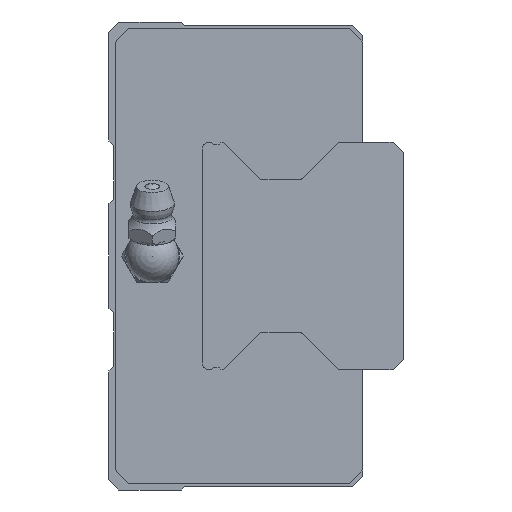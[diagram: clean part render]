
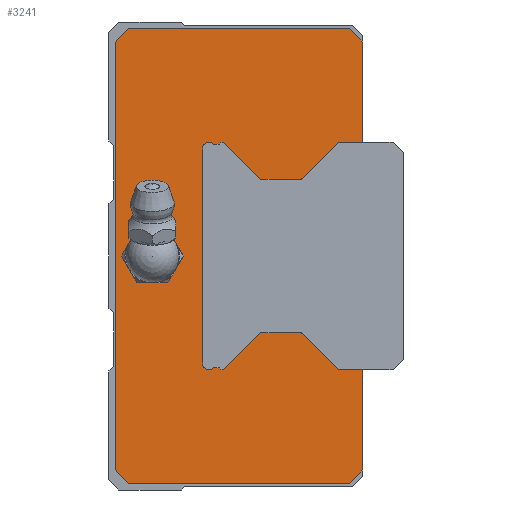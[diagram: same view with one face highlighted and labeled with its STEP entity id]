
A CAD part, left-side view. The second image highlights one B-rep face of the part: STEP entity #3241.
In plain terms, the highlighted planar face has unit normal (-1, 0, 0).
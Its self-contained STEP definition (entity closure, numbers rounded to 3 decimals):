
#143=CIRCLE('',#3519,3.);
#144=CIRCLE('',#3520,0.3);
#145=CIRCLE('',#3521,0.3);
#146=CIRCLE('',#3522,1.);
#147=CIRCLE('',#3523,1.);
#148=CIRCLE('',#3524,0.3);
#149=CIRCLE('',#3525,0.3);
#582=ORIENTED_EDGE('',*,*,#1330,.T.);
#583=ORIENTED_EDGE('',*,*,#1331,.T.);
#584=ORIENTED_EDGE('',*,*,#1323,.F.);
#585=ORIENTED_EDGE('',*,*,#1251,.F.);
#586=ORIENTED_EDGE('',*,*,#1247,.F.);
#587=ORIENTED_EDGE('',*,*,#1239,.F.);
#588=ORIENTED_EDGE('',*,*,#1315,.F.);
#589=ORIENTED_EDGE('',*,*,#1224,.F.);
#590=ORIENTED_EDGE('',*,*,#1262,.F.);
#591=ORIENTED_EDGE('',*,*,#1259,.F.);
#592=ORIENTED_EDGE('',*,*,#1325,.F.);
#593=ORIENTED_EDGE('',*,*,#1332,.T.);
#594=ORIENTED_EDGE('',*,*,#1333,.T.);
#595=ORIENTED_EDGE('',*,*,#1334,.F.);
#596=ORIENTED_EDGE('',*,*,#1335,.T.);
#597=ORIENTED_EDGE('',*,*,#1336,.F.);
#598=ORIENTED_EDGE('',*,*,#1337,.T.);
#599=ORIENTED_EDGE('',*,*,#1338,.T.);
#600=ORIENTED_EDGE('',*,*,#1339,.T.);
#601=ORIENTED_EDGE('',*,*,#1340,.T.);
#602=ORIENTED_EDGE('',*,*,#1341,.T.);
#603=ORIENTED_EDGE('',*,*,#1342,.T.);
#604=ORIENTED_EDGE('',*,*,#1343,.T.);
#605=ORIENTED_EDGE('',*,*,#1344,.T.);
#606=ORIENTED_EDGE('',*,*,#1345,.T.);
#607=ORIENTED_EDGE('',*,*,#1346,.T.);
#608=ORIENTED_EDGE('',*,*,#1347,.T.);
#609=ORIENTED_EDGE('',*,*,#1348,.F.);
#610=ORIENTED_EDGE('',*,*,#1349,.T.);
#611=ORIENTED_EDGE('',*,*,#1350,.F.);
#612=ORIENTED_EDGE('',*,*,#1351,.T.);
#1224=EDGE_CURVE('',#1638,#1639,#1943,.T.);
#1239=EDGE_CURVE('',#1653,#1654,#1958,.T.);
#1247=EDGE_CURVE('',#1654,#1660,#1965,.T.);
#1251=EDGE_CURVE('',#1660,#1662,#1969,.T.);
#1259=EDGE_CURVE('',#1669,#1670,#1977,.T.);
#1262=EDGE_CURVE('',#1670,#1638,#1980,.T.);
#1315=EDGE_CURVE('',#1639,#1653,#2030,.T.);
#1323=EDGE_CURVE('',#1662,#1709,#2038,.T.);
#1325=EDGE_CURVE('',#1712,#1669,#2040,.T.);
#1330=EDGE_CURVE('',#1716,#1716,#143,.T.);
#1331=EDGE_CURVE('',#1717,#1709,#2045,.T.);
#1332=EDGE_CURVE('',#1712,#1718,#2046,.T.);
#1333=EDGE_CURVE('',#1718,#1719,#2047,.T.);
#1334=EDGE_CURVE('',#1720,#1719,#144,.T.);
#1335=EDGE_CURVE('',#1720,#1721,#2048,.T.);
#1336=EDGE_CURVE('',#1722,#1721,#145,.T.);
#1337=EDGE_CURVE('',#1722,#1723,#2049,.T.);
#1338=EDGE_CURVE('',#1723,#1724,#2050,.T.);
#1339=EDGE_CURVE('',#1724,#1725,#2051,.T.);
#1340=EDGE_CURVE('',#1725,#1726,#2052,.T.);
#1341=EDGE_CURVE('',#1726,#1727,#146,.T.);
#1342=EDGE_CURVE('',#1727,#1728,#2053,.T.);
#1343=EDGE_CURVE('',#1728,#1729,#147,.T.);
#1344=EDGE_CURVE('',#1729,#1730,#2054,.T.);
#1345=EDGE_CURVE('',#1730,#1731,#2055,.T.);
#1346=EDGE_CURVE('',#1731,#1732,#2056,.T.);
#1347=EDGE_CURVE('',#1732,#1733,#2057,.T.);
#1348=EDGE_CURVE('',#1734,#1733,#148,.T.);
#1349=EDGE_CURVE('',#1734,#1735,#2058,.T.);
#1350=EDGE_CURVE('',#1736,#1735,#149,.T.);
#1351=EDGE_CURVE('',#1736,#1717,#2059,.T.);
#1638=VERTEX_POINT('',#4860);
#1639=VERTEX_POINT('',#4862);
#1653=VERTEX_POINT('',#4891);
#1654=VERTEX_POINT('',#4893);
#1660=VERTEX_POINT('',#4909);
#1662=VERTEX_POINT('',#4916);
#1669=VERTEX_POINT('',#4931);
#1670=VERTEX_POINT('',#4933);
#1709=VERTEX_POINT('',#5046);
#1712=VERTEX_POINT('',#5056);
#1716=VERTEX_POINT('',#5067);
#1717=VERTEX_POINT('',#5069);
#1718=VERTEX_POINT('',#5071);
#1719=VERTEX_POINT('',#5073);
#1720=VERTEX_POINT('',#5075);
#1721=VERTEX_POINT('',#5077);
#1722=VERTEX_POINT('',#5079);
#1723=VERTEX_POINT('',#5081);
#1724=VERTEX_POINT('',#5083);
#1725=VERTEX_POINT('',#5085);
#1726=VERTEX_POINT('',#5087);
#1727=VERTEX_POINT('',#5089);
#1728=VERTEX_POINT('',#5091);
#1729=VERTEX_POINT('',#5093);
#1730=VERTEX_POINT('',#5095);
#1731=VERTEX_POINT('',#5097);
#1732=VERTEX_POINT('',#5099);
#1733=VERTEX_POINT('',#5101);
#1734=VERTEX_POINT('',#5103);
#1735=VERTEX_POINT('',#5105);
#1736=VERTEX_POINT('',#5107);
#1943=LINE('',#4861,#2249);
#1958=LINE('',#4892,#2264);
#1965=LINE('',#4908,#2271);
#1969=LINE('',#4915,#2275);
#1977=LINE('',#4932,#2283);
#1980=LINE('',#4937,#2286);
#2030=LINE('',#5039,#2336);
#2038=LINE('',#5053,#2344);
#2040=LINE('',#5058,#2346);
#2045=LINE('',#5068,#2351);
#2046=LINE('',#5070,#2352);
#2047=LINE('',#5072,#2353);
#2048=LINE('',#5076,#2354);
#2049=LINE('',#5080,#2355);
#2050=LINE('',#5082,#2356);
#2051=LINE('',#5084,#2357);
#2052=LINE('',#5086,#2358);
#2053=LINE('',#5090,#2359);
#2054=LINE('',#5094,#2360);
#2055=LINE('',#5096,#2361);
#2056=LINE('',#5098,#2362);
#2057=LINE('',#5100,#2363);
#2058=LINE('',#5104,#2364);
#2059=LINE('',#5108,#2365);
#2249=VECTOR('',#3952,1000.);
#2264=VECTOR('',#3969,1000.);
#2271=VECTOR('',#3982,1000.);
#2275=VECTOR('',#3988,1000.);
#2283=VECTOR('',#3998,1000.);
#2286=VECTOR('',#4003,1000.);
#2336=VECTOR('',#4083,1000.);
#2344=VECTOR('',#4095,1000.);
#2346=VECTOR('',#4099,1000.);
#2351=VECTOR('',#4108,1000.);
#2352=VECTOR('',#4109,1000.);
#2353=VECTOR('',#4110,1000.);
#2354=VECTOR('',#4113,1000.);
#2355=VECTOR('',#4116,1000.);
#2356=VECTOR('',#4117,1000.);
#2357=VECTOR('',#4118,1000.);
#2358=VECTOR('',#4119,1000.);
#2359=VECTOR('',#4122,1000.);
#2360=VECTOR('',#4125,1000.);
#2361=VECTOR('',#4126,1000.);
#2362=VECTOR('',#4127,1000.);
#2363=VECTOR('',#4128,1000.);
#2364=VECTOR('',#4131,1000.);
#2365=VECTOR('',#4134,1000.);
#2601=EDGE_LOOP('',(#582));
#2602=EDGE_LOOP('',(#583,#584,#585,#586,#587,#588,#589,#590,#591,#592,#593,
#594,#595,#596,#597,#598,#599,#600,#601,#602,#603,#604,#605,#606,#607,#608,
#609,#610,#611,#612));
#2874=FACE_BOUND('',#2601,.T.);
#2875=FACE_BOUND('',#2602,.T.);
#3096=PLANE('',#3518);
#3241=ADVANCED_FACE('',(#2874,#2875),#3096,.F.);
#3518=AXIS2_PLACEMENT_3D('',#5065,#4104,#4105);
#3519=AXIS2_PLACEMENT_3D('',#5066,#4106,#4107);
#3520=AXIS2_PLACEMENT_3D('',#5074,#4111,#4112);
#3521=AXIS2_PLACEMENT_3D('',#5078,#4114,#4115);
#3522=AXIS2_PLACEMENT_3D('',#5088,#4120,#4121);
#3523=AXIS2_PLACEMENT_3D('',#5092,#4123,#4124);
#3524=AXIS2_PLACEMENT_3D('',#5102,#4129,#4130);
#3525=AXIS2_PLACEMENT_3D('',#5106,#4132,#4133);
#3952=DIRECTION('',(0.,0.707,0.707));
#3969=DIRECTION('',(0.,-0.707,0.707));
#3982=DIRECTION('',(0.,-1.,0.));
#3988=DIRECTION('',(0.,-0.707,-0.707));
#3998=DIRECTION('',(0.,0.707,-0.707));
#4003=DIRECTION('',(0.,1.,0.));
#4083=DIRECTION('',(0.,0.,1.));
#4095=DIRECTION('',(0.,0.,-1.));
#4099=DIRECTION('',(0.,0.,-1.));
#4104=DIRECTION('',(1.,0.,0.));
#4105=DIRECTION('',(0.,0.,-1.));
#4106=DIRECTION('',(1.,0.,0.));
#4107=DIRECTION('',(0.,0.,-1.));
#4108=DIRECTION('',(0.,-1.,0.));
#4109=DIRECTION('',(0.,1.,0.));
#4110=DIRECTION('',(0.,0.707,0.707));
#4111=DIRECTION('',(1.,0.,0.));
#4112=DIRECTION('',(0.,0.,-1.));
#4113=DIRECTION('',(0.,1.,0.));
#4114=DIRECTION('',(1.,0.,0.));
#4115=DIRECTION('',(0.,0.,-1.));
#4116=DIRECTION('',(0.,0.707,-0.707));
#4117=DIRECTION('',(0.,1.,0.));
#4118=DIRECTION('',(0.,0.707,0.707));
#4119=DIRECTION('',(0.,1.,0.));
#4120=DIRECTION('',(1.,0.,0.));
#4121=DIRECTION('',(0.,0.,-1.));
#4122=DIRECTION('',(0.,0.,1.));
#4123=DIRECTION('',(1.,0.,0.));
#4124=DIRECTION('',(0.,0.,-1.));
#4125=DIRECTION('',(0.,-1.,0.));
#4126=DIRECTION('',(0.,-0.707,0.707));
#4127=DIRECTION('',(0.,-1.,0.));
#4128=DIRECTION('',(0.,-0.707,-0.707));
#4129=DIRECTION('',(1.,0.,0.));
#4130=DIRECTION('',(0.,0.,-1.));
#4131=DIRECTION('',(0.,-1.,0.));
#4132=DIRECTION('',(1.,0.,0.));
#4133=DIRECTION('',(0.,0.,-1.));
#4134=DIRECTION('',(0.,-0.707,0.707));
#4860=CARTESIAN_POINT('',(-77.5,35.,-34.));
#4861=CARTESIAN_POINT('',(-77.5,35.,-34.));
#4862=CARTESIAN_POINT('',(-77.5,37.,-32.));
#4891=CARTESIAN_POINT('',(-77.5,37.,32.));
#4892=CARTESIAN_POINT('',(-77.5,37.,32.));
#4893=CARTESIAN_POINT('',(-77.5,35.,34.));
#4908=CARTESIAN_POINT('',(-77.5,35.,34.));
#4909=CARTESIAN_POINT('',(-77.5,2.,34.));
#4915=CARTESIAN_POINT('',(-77.5,2.,34.));
#4916=CARTESIAN_POINT('',(-77.5,0.,32.));
#4931=CARTESIAN_POINT('',(-77.5,0.,-32.));
#4932=CARTESIAN_POINT('',(-77.5,0.,-32.));
#4933=CARTESIAN_POINT('',(-77.5,2.,-34.));
#4937=CARTESIAN_POINT('',(-77.5,2.,-34.));
#5039=CARTESIAN_POINT('',(-77.5,37.,-32.));
#5046=CARTESIAN_POINT('',(-77.5,0.,17.));
#5053=CARTESIAN_POINT('',(-77.5,0.,32.));
#5056=CARTESIAN_POINT('',(-77.5,0.,-17.));
#5058=CARTESIAN_POINT('',(-77.5,0.,32.));
#5065=CARTESIAN_POINT('',(-77.5,0.,0.));
#5066=CARTESIAN_POINT('',(-77.5,31.5,0.));
#5067=CARTESIAN_POINT('',(-77.5,31.5,-3.));
#5068=CARTESIAN_POINT('',(-77.5,3.7,17.));
#5069=CARTESIAN_POINT('',(-77.5,3.7,17.));
#5070=CARTESIAN_POINT('',(-77.5,-4.5,-17.));
#5071=CARTESIAN_POINT('',(-77.5,3.7,-17.));
#5072=CARTESIAN_POINT('',(-77.5,3.7,-17.));
#5073=CARTESIAN_POINT('',(-77.5,9.112,-11.588));
#5074=CARTESIAN_POINT('',(-77.5,9.324,-11.8));
#5075=CARTESIAN_POINT('',(-77.5,9.324,-11.5));
#5076=CARTESIAN_POINT('',(-77.5,9.324,-11.5));
#5077=CARTESIAN_POINT('',(-77.5,15.276,-11.5));
#5078=CARTESIAN_POINT('',(-77.5,15.276,-11.8));
#5079=CARTESIAN_POINT('',(-77.5,15.488,-11.588));
#5080=CARTESIAN_POINT('',(-77.5,15.488,-11.588));
#5081=CARTESIAN_POINT('',(-77.5,20.9,-17.));
#5082=CARTESIAN_POINT('',(-77.5,20.9,-17.));
#5083=CARTESIAN_POINT('',(-77.5,21.25,-17.));
#5084=CARTESIAN_POINT('',(-77.5,21.25,-17.));
#5085=CARTESIAN_POINT('',(-77.5,21.5,-16.75));
#5086=CARTESIAN_POINT('',(-77.5,21.5,-16.75));
#5087=CARTESIAN_POINT('',(-77.5,22.339,-16.75));
#5088=CARTESIAN_POINT('',(-77.5,23.,-16.));
#5089=CARTESIAN_POINT('',(-77.5,24.,-16.));
#5090=CARTESIAN_POINT('',(-77.5,24.,-16.));
#5091=CARTESIAN_POINT('',(-77.5,24.,16.));
#5092=CARTESIAN_POINT('',(-77.5,23.,16.));
#5093=CARTESIAN_POINT('',(-77.5,22.339,16.75));
#5094=CARTESIAN_POINT('',(-77.5,22.339,16.75));
#5095=CARTESIAN_POINT('',(-77.5,21.5,16.75));
#5096=CARTESIAN_POINT('',(-77.5,21.5,16.75));
#5097=CARTESIAN_POINT('',(-77.5,21.25,17.));
#5098=CARTESIAN_POINT('',(-77.5,21.25,17.));
#5099=CARTESIAN_POINT('',(-77.5,20.9,17.));
#5100=CARTESIAN_POINT('',(-77.5,20.9,17.));
#5101=CARTESIAN_POINT('',(-77.5,15.488,11.588));
#5102=CARTESIAN_POINT('',(-77.5,15.276,11.8));
#5103=CARTESIAN_POINT('',(-77.5,15.276,11.5));
#5104=CARTESIAN_POINT('',(-77.5,15.276,11.5));
#5105=CARTESIAN_POINT('',(-77.5,9.324,11.5));
#5106=CARTESIAN_POINT('',(-77.5,9.324,11.8));
#5107=CARTESIAN_POINT('',(-77.5,9.112,11.588));
#5108=CARTESIAN_POINT('',(-77.5,9.112,11.588));
